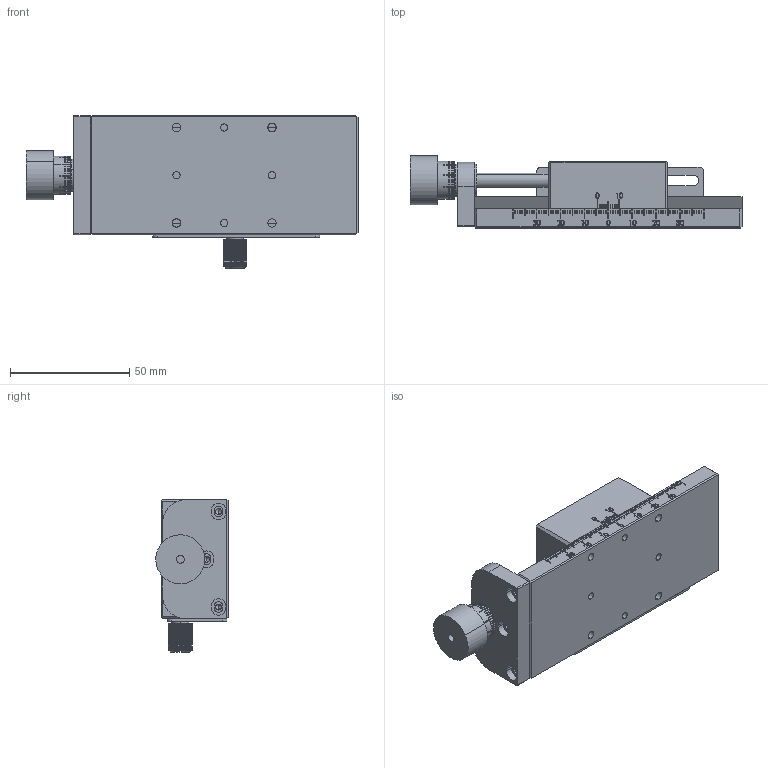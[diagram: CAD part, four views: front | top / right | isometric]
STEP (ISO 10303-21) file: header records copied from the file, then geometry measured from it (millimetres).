
FILE_DESCRIPTION (( 'STEP AP203' ), '1' );
FILE_NAME ('MF0605-119-L.STEP', '2021-11-22T05:58:43', ( '' ), ( '' ), 'SwSTEP 2.0', 'SolidWorks 2020', '' );
FILE_SCHEMA (( 'CONFIG_CONTROL_DESIGN' ));
Products named in the file (1): MF0605-119-L
Bounding box: 139 x 30.22 x 64 mm (x, y, z)
Volume: 115202.6 mm3; surface area: 39425.8 mm2
Topology: 4 solids, 5 shells, 1196 faces, 3343 edges, 2205 vertices
Faces by surface type: plane 860, cylinder 191, bspline 121, cone 24
Entity records: 46746 total; most frequent: CARTESIAN_POINT 16550, ORIENTED_EDGE 6642, DIRECTION 5603, EDGE_CURVE 3321, LINE 2483, VECTOR 2483, VERTEX_POINT 2205, AXIS2_PLACEMENT_3D 1560
